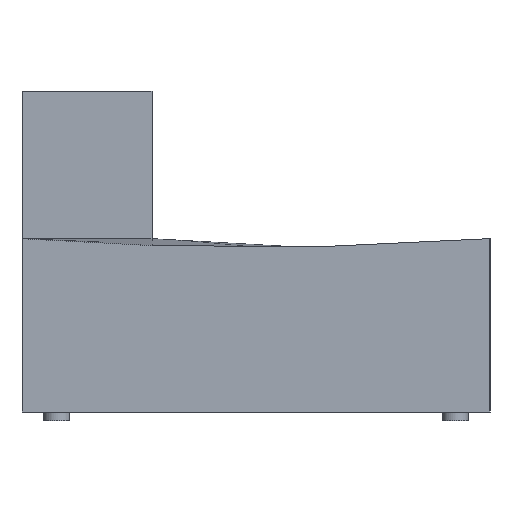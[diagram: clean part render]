
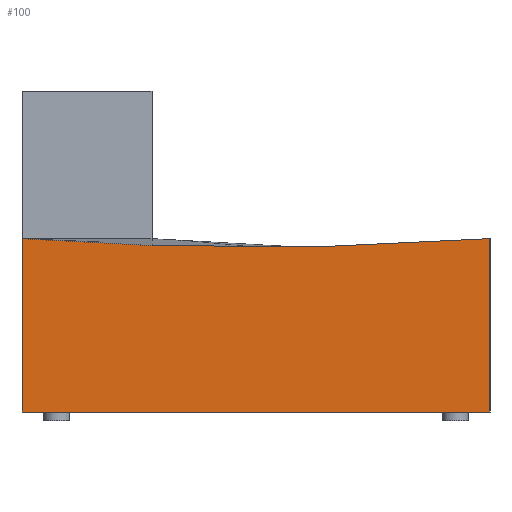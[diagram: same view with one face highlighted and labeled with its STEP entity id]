
A CAD part, left-side view. The second image highlights one B-rep face of the part: STEP entity #100.
In plain terms, the highlighted planar face has unit normal (-1, 0, 0).
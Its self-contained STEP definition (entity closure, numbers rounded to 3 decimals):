
#100=ADVANCED_FACE('',(#128),#383,.T.);
#128=FACE_OUTER_BOUND('',#156,.T.);
#156=EDGE_LOOP('',(#199,#200,#201,#202,#203));
#199=ORIENTED_EDGE('',*,*,#286,.T.);
#200=ORIENTED_EDGE('',*,*,#287,.T.);
#201=ORIENTED_EDGE('',*,*,#288,.T.);
#202=ORIENTED_EDGE('',*,*,#273,.T.);
#203=ORIENTED_EDGE('',*,*,#271,.F.);
#271=EDGE_CURVE('',#351,#352,#317,.T.);
#273=EDGE_CURVE('',#355,#352,#319,.T.);
#286=EDGE_CURVE('',#351,#363,#332,.T.);
#287=EDGE_CURVE('',#363,#364,#333,.T.);
#288=EDGE_CURVE('',#364,#355,#334,.T.);
#317=B_SPLINE_CURVE_WITH_KNOTS('',3,(#592,#593,#594,#595),.UNSPECIFIED.,
 .F.,.F.,(4,4),(0.,300.225),.UNSPECIFIED.);
#319=B_SPLINE_CURVE_WITH_KNOTS('',3,(#601,#602,#603,#604,#605,#606,#607,
#608,#609,#610),.UNSPECIFIED.,.F.,.F.,(4,2,2,2,4),(0.,195.238,
390.475,585.713,780.951),.UNSPECIFIED.);
#332=B_SPLINE_CURVE_WITH_KNOTS('',1,(#657,#658),.UNSPECIFIED.,.F.,.F.,(2,
2),(0.,400.),.UNSPECIFIED.);
#333=B_SPLINE_CURVE_WITH_KNOTS('',1,(#659,#660),.UNSPECIFIED.,.F.,.F.,(2,
2),(0.,1080.),.UNSPECIFIED.);
#334=B_SPLINE_CURVE_WITH_KNOTS('',1,(#661,#662),.UNSPECIFIED.,.F.,.F.,(2,
2),(0.,400.),.UNSPECIFIED.);
#351=VERTEX_POINT('',#578);
#352=VERTEX_POINT('',#579);
#355=VERTEX_POINT('',#582);
#363=VERTEX_POINT('',#590);
#364=VERTEX_POINT('',#591);
#383=PLANE('',#427);
#427=AXIS2_PLACEMENT_3D('',#573,#450,$);
#450=DIRECTION('',(-1.,0.,0.));
#573=CARTESIAN_POINT('',(7069.138,-1090.8,424.));
#578=CARTESIAN_POINT('',(7069.138,0.,420.));
#579=CARTESIAN_POINT('',(7069.138,-300.,403.955));
#582=CARTESIAN_POINT('',(7069.138,-1080.,420.));
#590=CARTESIAN_POINT('',(7069.138,0.,20.));
#591=CARTESIAN_POINT('',(7069.138,-1080.,20.));
#592=CARTESIAN_POINT('',(7069.138,0.,420.));
#593=CARTESIAN_POINT('',(7069.138,-99.875,412.602));
#594=CARTESIAN_POINT('',(7069.138,-199.905,407.252));
#595=CARTESIAN_POINT('',(7069.138,-300.,403.955));
#601=CARTESIAN_POINT('',(7069.138,-1080.,420.));
#602=CARTESIAN_POINT('',(7069.138,-1015.134,415.195));
#603=CARTESIAN_POINT('',(7069.138,-950.201,411.254));
#604=CARTESIAN_POINT('',(7069.138,-820.258,405.103));
#605=CARTESIAN_POINT('',(7069.138,-755.246,402.893));
#606=CARTESIAN_POINT('',(7069.138,-625.184,400.209));
#607=CARTESIAN_POINT('',(7069.138,-560.135,399.737));
#608=CARTESIAN_POINT('',(7069.138,-430.048,400.541));
#609=CARTESIAN_POINT('',(7069.138,-365.01,401.815));
#610=CARTESIAN_POINT('',(7069.138,-300.,403.955));
#657=CARTESIAN_POINT('',(7069.138,0.,420.));
#658=CARTESIAN_POINT('',(7069.138,0.,20.));
#659=CARTESIAN_POINT('',(7069.138,0.,20.));
#660=CARTESIAN_POINT('',(7069.138,-1080.,20.));
#661=CARTESIAN_POINT('',(7069.138,-1080.,20.));
#662=CARTESIAN_POINT('',(7069.138,-1080.,420.));
